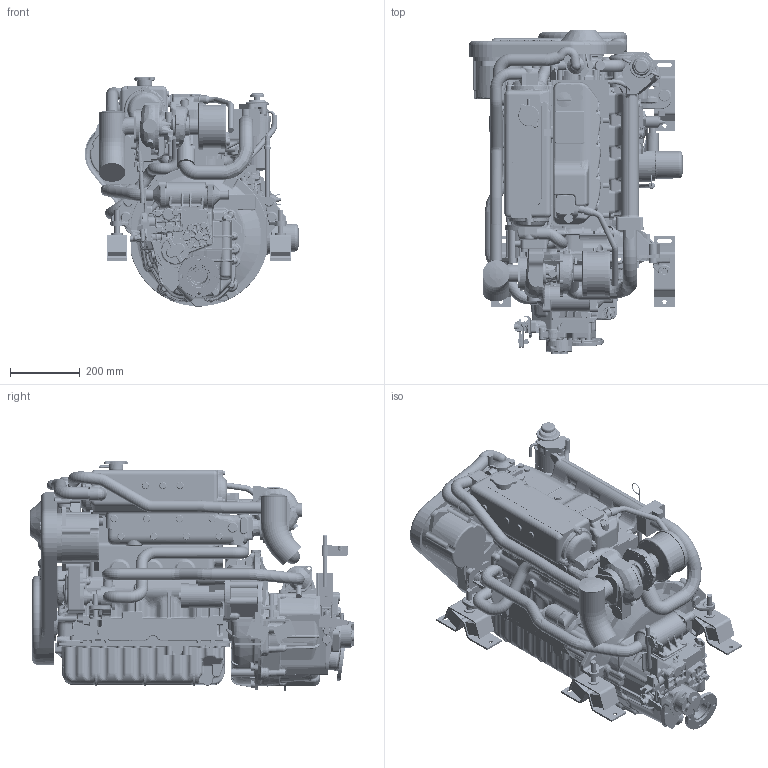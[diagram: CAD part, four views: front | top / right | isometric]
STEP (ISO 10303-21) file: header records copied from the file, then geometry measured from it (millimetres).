
FILE_DESCRIPTION(('OneSpaceDesigner STEP Export'),'2;1');
FILE_NAME('JH4T_4JH4TE_KMH4A_R2005.11.stp','2005-11-24T16:08:43',(''),(''),'OneSpace Designer STEP processor for AP214 (Solid Model)','OneSpace Designer 13.00 26-Oct-2004 (C) CoCreate Software GmbH','');
FILE_SCHEMA(('AUTOMOTIVE_DESIGN { 1 0 10303 214 1 1 1 1 }'));
Length unit declared in the file: millimetre
Products named in the file (69): Part_010; Part_005; Part_011; Part_007; Part_006; Part_002; Part_008; Part_009; Part_001; Assembly_000; Part_103; Part_107; Part_102; Part_105; Part_109; Part_106; Part_104; Part_108; Part_101; Part_110; Assembly_100; Part_220; Part_213; Part_208; Part_203; Part_212; Part_205; Part_206; Part_202; Part_207; Part_211; Part_201; Part_209; Part_210; Part_204; Part_216; Part_217; Part_218; Part_219; Part_214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
Assembly tree (68 placements, depth 3):
  JH4T_4JH4TE_KMH4A_R2005.11
    Assembly_800
      Part_802
      Part_801
    Assembly_900
      Part_905
      Part_906
      Part_907
      Part_908
      Part_901
    Assembly_700
      Part_701
    Assembly_600
      Part_601
    Assembly_500
      Part_501
    Assembly_400
      Part_402
      Part_401
    Assembly_300
      Part_304
      Part_303
      Part_306
      Part_302
      Part_305
      Part_301
    Assembly_200
      Part_222
      Part_221
      Part_214
      Part_219
      Part_218
      Part_217
      Part_216
      Part_204
      Part_210
      Part_209
      Part_201
      Part_211
      Part_207
      Part_202
      Part_206
      Part_205
      Part_212
      Part_203
      Part_208
      Part_213
      Part_220
    Assembly_100
      Part_110
      Part_101
      Part_108
      Part_104
      Part_106
      Part_109
      Part_105
      Part_102
      Part_107
      Part_103
    Assembly_000
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Bounding box: 616.1 x 933.05 x 658.55 mm (x, y, z)
Volume: 85883710.5 mm3; surface area: 5977452.9 mm2
Topology: 53 solids, 65 shells, 17936 faces, 45548 edges, 27660 vertices
Faces by surface type: cylinder 5954, plane 4099, bspline 3769, torus 2198, sphere 666, revolution 656, cone 588, extrusion 6
Entity records: 718208 total; most frequent: CARTESIAN_POINT 338096, ORIENTED_EDGE 90603, DIRECTION 67900, EDGE_CURVE 45369, VERTEX_POINT 27654, AXIS2_PLACEMENT_3D 26029, EDGE_LOOP 18162, FACE_OUTER_BOUND 17934
